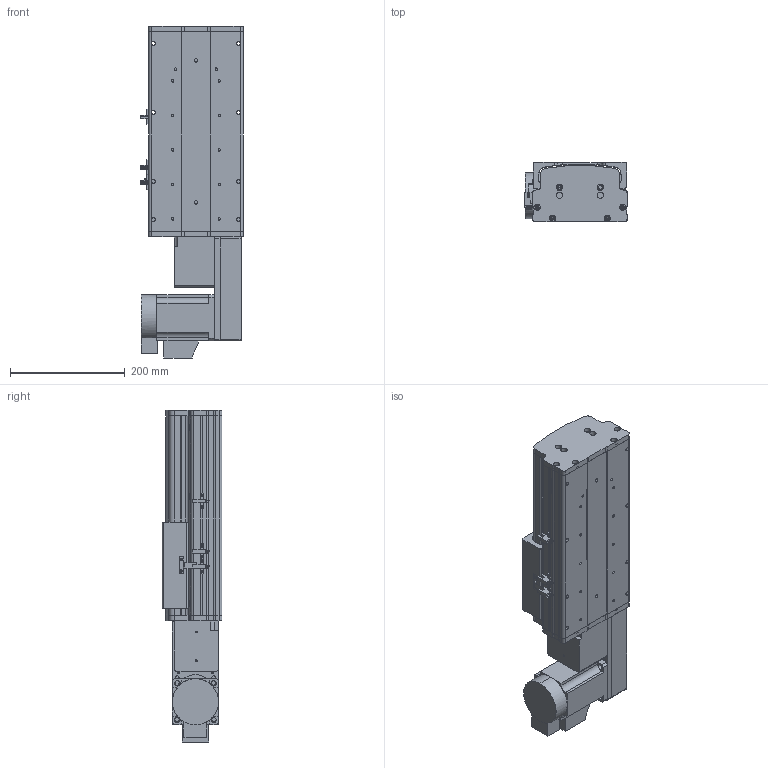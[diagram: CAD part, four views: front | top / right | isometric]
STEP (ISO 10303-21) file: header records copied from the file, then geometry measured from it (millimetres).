
FILE_DESCRIPTION (( 'STEP AP214' ), '1' );
FILE_NAME ('KSD165B-S100-MRB-CM.STEP', '2017-10-16T08:34:26', ( '微软用户' ), ( '微软中国' ), 'SwSTEP 2.0', 'SolidWorks 2014', '' );
FILE_SCHEMA (( 'AUTOMOTIVE_DESIGN' ));
Length unit declared in the file: millimetre
Products named in the file (17): KSD165模组-同步带滑动座-最新版; KSD165B-S100-MRB-CM; HTPA26S5M250-A-H8 750W萇儂蚚; HTPA26S5M250-A-H8 400W萇儂蚚 ; 130宽模组马达安装板连板左右折同步带; 130宽模组保护罩上下左右折-同步带; KSD165模组-同步带防尘盖1-100行程-最新版; KSD165模组同步带底板-100行程-最新; 拸秶雄ん750W侜督萇儂; 165宽马达安装板同步带右; U倰嫖萇假蚾璃; U倰嫖萇EEㄜSX672; 覜茼え68遵圉猾敕; KSD165模组-同步带-防撞垫2; KSD165模组同步带-防撞垫1; KSD165耀郪-ヶ傷啣1-肮祭湍; KSD165模组-后端板1-同步带
Assembly tree (20 placements, depth 2):
  KSD165B-S100-MRB-CM
    KSD165模组-同步带滑动座-最新版
    KSD165模组-后端板1-同步带
    KSD165耀郪-ヶ傷啣1-肮祭湍
    KSD165模组同步带-防撞垫1
    KSD165模组-同步带-防撞垫2
    覜茼え68遵圉猾敕
    U倰嫖萇EEㄜSX672  x3
    U倰嫖萇假蚾璃  x3
    165宽马达安装板同步带右
    拸秶雄ん750W侜督萇儂
    KSD165模组同步带底板-100行程-最新
    KSD165模组-同步带防尘盖1-100行程-最新版
    130宽模组保护罩上下左右折-同步带
    130宽模组马达安装板连板左右折同步带
    HTPA26S5M250-A-H8 400W萇儂蚚 
    HTPA26S5M250-A-H8 750W萇儂蚚
Bounding box: 178.7 x 104 x 577.5 mm (x, y, z)
Volume: 3852232.8 mm3; surface area: 885694.2 mm2
Topology: 21 solids, 21 shells, 1845 faces, 5190 edges, 3384 vertices
Faces by surface type: cylinder 1159, plane 574, cone 112
Entity records: 58780 total; most frequent: CARTESIAN_POINT 12064, DIRECTION 9754, ORIENTED_EDGE 9040, EDGE_CURVE 4520, AXIS2_PLACEMENT_3D 3808, VERTEX_POINT 2976, CIRCLE 2160, VECTOR 2138
